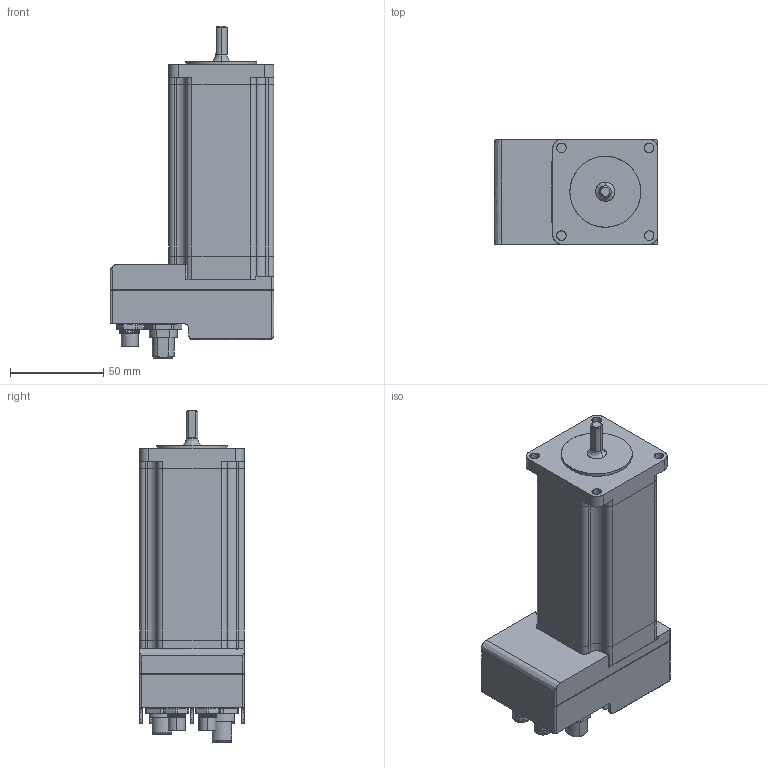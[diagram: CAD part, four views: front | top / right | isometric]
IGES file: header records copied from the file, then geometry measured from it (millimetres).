
Start section: SolidWorks IGES file using analytic representation for surfaces
Global section: file name: C:\Work\Sevotronix\NEMA 23 ECAT 3_11_16\CAD\3d models for customers\IST-23L16EC10.IGS; native system: SolidWorks 2013; preprocessor: SolidWorks 2013; author: owner; date: 180321.123841; units: millimetre
Bounding box: 87.9 x 56.4 x 178.41 mm (x, y, z)
Surface area: 142387 mm2 (no closed solid volume)
Topology: 0 solids, 0 shells, 1753 faces, 20913 edges, 20869 vertices
Faces by surface type: revolution 913, bspline 840
